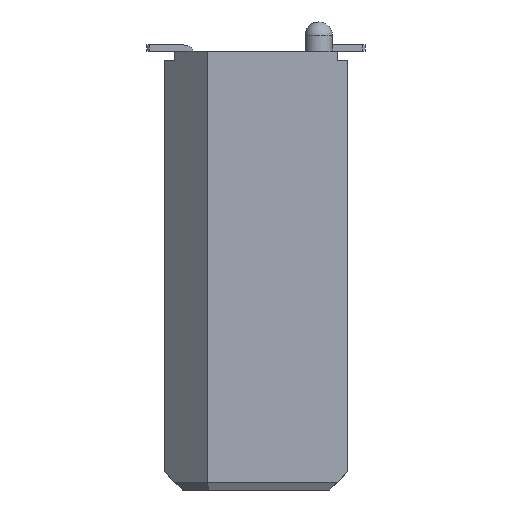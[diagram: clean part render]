
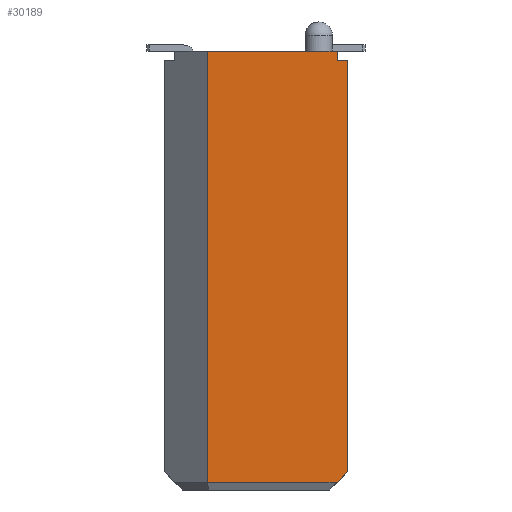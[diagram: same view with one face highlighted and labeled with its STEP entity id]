
A CAD part, left-side view. The second image highlights one B-rep face of the part: STEP entity #30189.
In plain terms, the highlighted planar face has unit normal (-1, 0, 0).
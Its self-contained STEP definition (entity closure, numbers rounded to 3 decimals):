
#338 = VECTOR ( 'NONE', #38154, 1000. ) ;
#635 = VERTEX_POINT ( 'NONE', #7096 ) ;
#689 = VERTEX_POINT ( 'NONE', #42015 ) ;
#3990 = VECTOR ( 'NONE', #32420, 1000. ) ;
#4054 = VECTOR ( 'NONE', #32345, 1000. ) ;
#5257 = ORIENTED_EDGE ( 'NONE', *, *, #22673, .T. ) ;
#5258 = ORIENTED_EDGE ( 'NONE', *, *, #22904, .F. ) ;
#5289 = ORIENTED_EDGE ( 'NONE', *, *, #22655, .F. ) ;
#5296 = ORIENTED_EDGE ( 'NONE', *, *, #15651, .F. ) ;
#5317 = ORIENTED_EDGE ( 'NONE', *, *, #22888, .F. ) ;
#5321 = ORIENTED_EDGE ( 'NONE', *, *, #22890, .F. ) ;
#5337 = ORIENTED_EDGE ( 'NONE', *, *, #22686, .F. ) ;
#7096 = CARTESIAN_POINT ( 'NONE',  ( -118.093, -3., -7.05 ) ) ;
#8547 = VERTEX_POINT ( 'NONE', #41553 ) ;
#9029 = VERTEX_POINT ( 'NONE', #41914 ) ;
#9715 = EDGE_LOOP ( 'NONE', ( #5257, #5321, #5258, #5296, #5337, #5289, #5317 ) ) ;
#10215 = VECTOR ( 'NONE', #32238, 1000. ) ;
#10305 = VECTOR ( 'NONE', #12531, 1000. ) ;
#10802 = VECTOR ( 'NONE', #12493, 1000. ) ;
#10814 = VECTOR ( 'NONE', #12487, 1000. ) ;
#12470 = LINE ( 'NONE', #12486, #10814 ) ;
#12486 = CARTESIAN_POINT ( 'NONE',  ( -118.093, -3., -7.05 ) ) ;
#12487 = DIRECTION ( 'NONE',  ( 0., 0.707, -0.707 ) ) ;
#12491 = LINE ( 'NONE', #12492, #10802 ) ;
#12492 = CARTESIAN_POINT ( 'NONE',  ( -118.093, -4.62, 6.4 ) ) ;
#12493 = DIRECTION ( 'NONE',  ( 0., -1., 0. ) ) ;
#12525 = LINE ( 'NONE', #12530, #10305 ) ;
#12530 = CARTESIAN_POINT ( 'NONE',  ( -118.093, -2.65, -3.5 ) ) ;
#12531 = DIRECTION ( 'NONE',  ( 0., 0., -1. ) ) ;
#12725 = CARTESIAN_POINT ( 'NONE',  ( -118.093, 1.6, -7.4 ) ) ;
#15651 = EDGE_CURVE ( 'NONE', #33517, #32983, #38118, .T. ) ;
#17087 = FACE_OUTER_BOUND ( 'NONE', #9715, .T. ) ;
#17089 = CARTESIAN_POINT ( 'NONE',  ( -118.093, 3., -3.5 ) ) ;
#17090 = PLANE ( 'NONE',  #25607 ) ;
#17092 = DIRECTION ( 'NONE',  ( 1., 0., 0. ) ) ;
#17093 = DIRECTION ( 'NONE',  ( 0., 0., -1. ) ) ;
#22655 = EDGE_CURVE ( 'NONE', #689, #22996, #32233, .T. ) ;
#22673 = EDGE_CURVE ( 'NONE', #635, #9029, #32339, .T. ) ;
#22686 = EDGE_CURVE ( 'NONE', #22996, #33517, #32394, .T. ) ;
#22888 = EDGE_CURVE ( 'NONE', #635, #689, #12470, .T. ) ;
#22890 = EDGE_CURVE ( 'NONE', #8547, #9029, #12491, .T. ) ;
#22904 = EDGE_CURVE ( 'NONE', #32983, #8547, #12525, .T. ) ;
#22996 = VERTEX_POINT ( 'NONE', #12725 ) ;
#23769 = CARTESIAN_POINT ( 'NONE',  ( -118.093, -2.65, 6.7 ) ) ;
#25607 = AXIS2_PLACEMENT_3D ( 'NONE', #17089, #17092, #17093 ) ;
#26116 = CARTESIAN_POINT ( 'NONE',  ( -118.093, 1.6, 6.7 ) ) ;
#30189 = ADVANCED_FACE ( 'NONE', ( #17087 ), #17090, .F. ) ;
#32233 = LINE ( 'NONE', #32236, #10215 ) ;
#32236 = CARTESIAN_POINT ( 'NONE',  ( -118.093, 3., -7.4 ) ) ;
#32238 = DIRECTION ( 'NONE',  ( 0., 1., 0. ) ) ;
#32339 = LINE ( 'NONE', #32343, #4054 ) ;
#32343 = CARTESIAN_POINT ( 'NONE',  ( -118.093, -3., -4.3 ) ) ;
#32345 = DIRECTION ( 'NONE',  ( 0., 0., 1. ) ) ;
#32394 = LINE ( 'NONE', #32416, #3990 ) ;
#32416 = CARTESIAN_POINT ( 'NONE',  ( -118.093, 1.6, -3.5 ) ) ;
#32420 = DIRECTION ( 'NONE',  ( 0., 0., 1. ) ) ;
#32983 = VERTEX_POINT ( 'NONE', #23769 ) ;
#33517 = VERTEX_POINT ( 'NONE', #26116 ) ;
#38118 = LINE ( 'NONE', #38151, #338 ) ;
#38151 = CARTESIAN_POINT ( 'NONE',  ( -118.093, -3., 6.7 ) ) ;
#38154 = DIRECTION ( 'NONE',  ( 0., -1., 0. ) ) ;
#41553 = CARTESIAN_POINT ( 'NONE',  ( -118.093, -2.65, 6.4 ) ) ;
#41914 = CARTESIAN_POINT ( 'NONE',  ( -118.093, -3., 6.4 ) ) ;
#42015 = CARTESIAN_POINT ( 'NONE',  ( -118.093, -2.65, -7.4 ) ) ;
